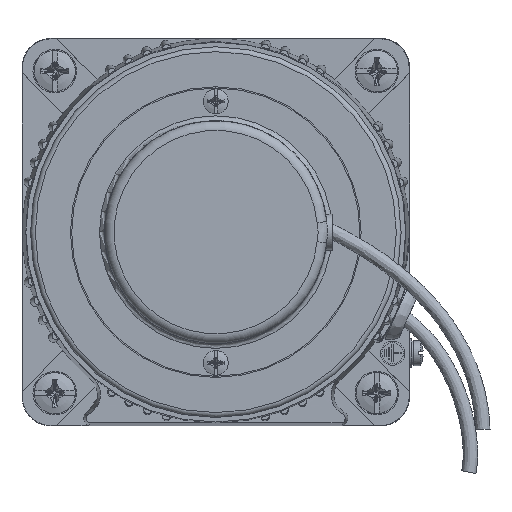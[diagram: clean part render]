
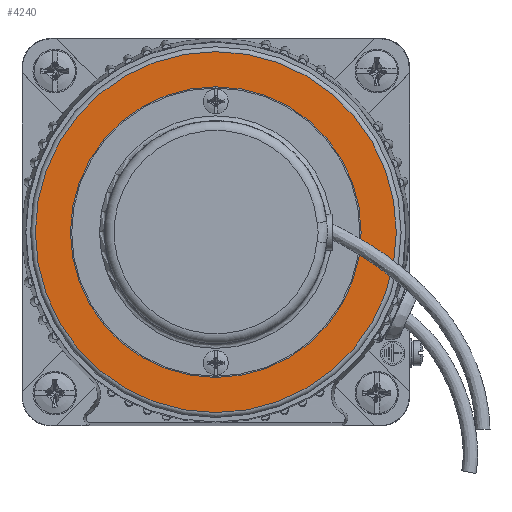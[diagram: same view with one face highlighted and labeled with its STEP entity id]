
A CAD part, left-side view. The second image highlights one B-rep face of the part: STEP entity #4240.
In plain terms, the highlighted planar face has unit normal (-1, 0, 0).
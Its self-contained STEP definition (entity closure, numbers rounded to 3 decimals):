
#3746=FACE_BOUND('',#6325,.T.);
#3747=FACE_BOUND('',#6326,.T.);
#4240=ADVANCED_FACE('',(#3746,#3747),#5141,.F.);
#5141=PLANE('',#16542);
#6325=EDGE_LOOP('',(#7908));
#6326=EDGE_LOOP('',(#7909));
#7908=ORIENTED_EDGE('',*,*,#13681,.T.);
#7909=ORIENTED_EDGE('',*,*,#13540,.F.);
#11998=VERTEX_POINT('',#21496);
#12079=VERTEX_POINT('',#22105);
#13540=EDGE_CURVE('',#11998,#11998,#15905,.T.);
#13681=EDGE_CURVE('',#12079,#12079,#15936,.T.);
#15905=CIRCLE('',#16460,30.);
#15936=CIRCLE('',#16541,37.25);
#16460=AXIS2_PLACEMENT_3D('',#21495,#17780,#17781);
#16541=AXIS2_PLACEMENT_3D('',#22104,#17997,#17998);
#16542=AXIS2_PLACEMENT_3D('',#22106,#17999,#18000);
#17780=DIRECTION('',(-1.,0.,0.));
#17781=DIRECTION('',(0.,0.,1.));
#17997=DIRECTION('',(-1.,0.,0.));
#17998=DIRECTION('',(0.,0.,-1.));
#17999=DIRECTION('',(1.,0.,0.));
#18000=DIRECTION('',(0.,0.,-1.));
#21495=CARTESIAN_POINT('',(-86.,40.,40.));
#21496=CARTESIAN_POINT('',(-86.,40.,70.));
#22104=CARTESIAN_POINT('',(-86.,40.,40.));
#22105=CARTESIAN_POINT('',(-86.,40.,2.75));
#22106=CARTESIAN_POINT('',(-86.,40.,78.25));
